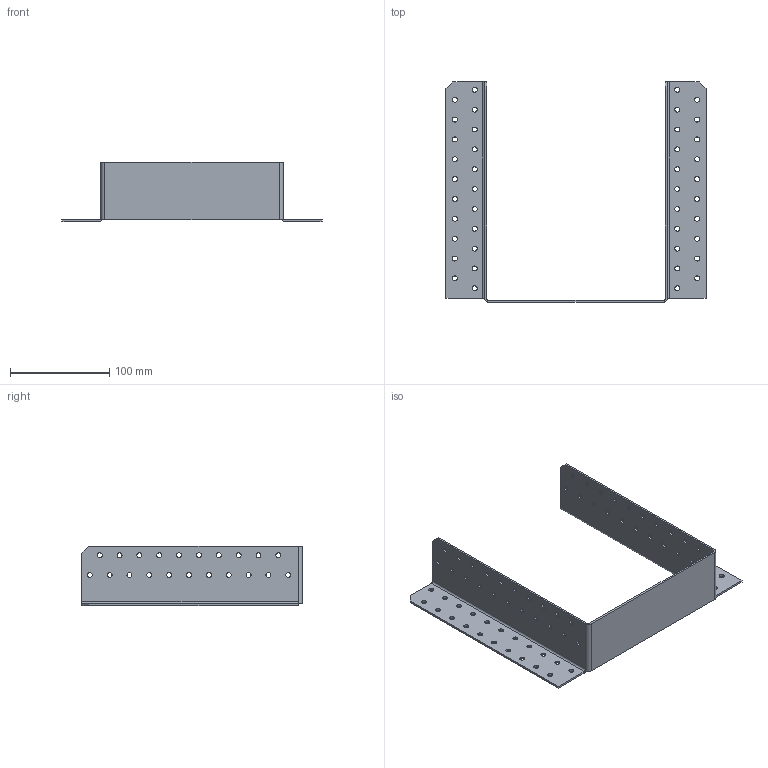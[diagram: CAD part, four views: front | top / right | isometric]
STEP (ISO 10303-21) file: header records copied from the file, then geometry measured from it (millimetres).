
FILE_DESCRIPTION (( 'STEP AP203' ), '1' );
FILE_NAME ('405222.STEP', '2021-04-17T17:45:47', ( '' ), ( '' ), 'SwSTEP 2.0', 'SolidWorks 2013', '' );
FILE_SCHEMA (( 'CONFIG_CONTROL_DESIGN' ));
Length unit declared in the file: millimetre
Products named in the file (1): 405222
Bounding box: 262 x 222 x 60 mm (x, y, z)
Volume: 103219.8 mm3; surface area: 108862.7 mm2
Topology: 1 solids, 1 shells, 212 faces, 600 edges, 390 vertices
Faces by surface type: cylinder 176, plane 36
Entity records: 7451 total; most frequent: DIRECTION 1380, CARTESIAN_POINT 1203, ORIENTED_EDGE 1200, EDGE_CURVE 600, AXIS2_PLACEMENT_3D 567, VERTEX_POINT 390, EDGE_LOOP 380, CIRCLE 354
